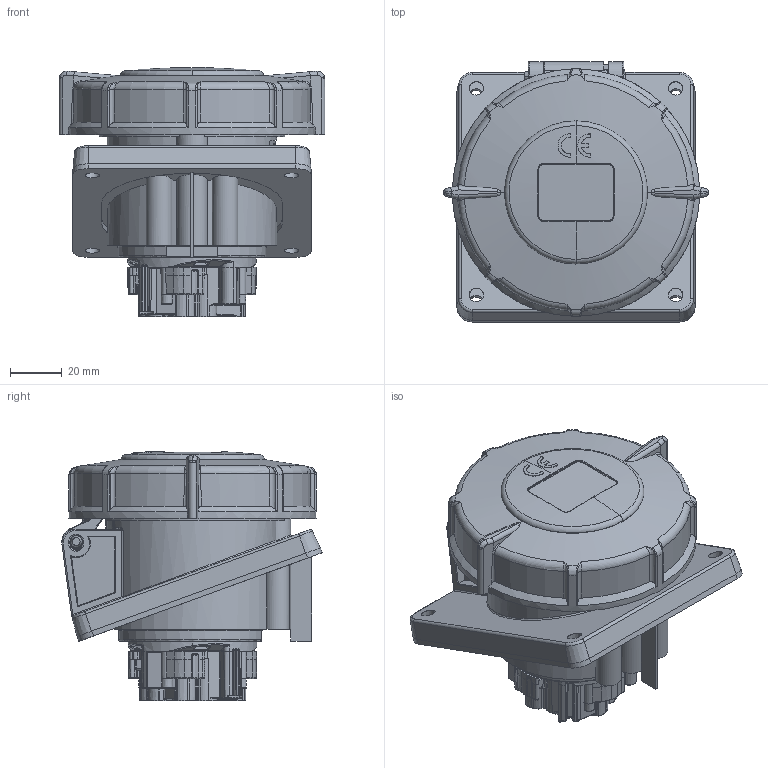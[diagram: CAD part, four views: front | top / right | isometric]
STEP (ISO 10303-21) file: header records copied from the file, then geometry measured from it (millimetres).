
FILE_DESCRIPTION((''),'2;1');
FILE_NAME('1805_SW0001','2017-09-25T',('gisse'),('MENNEKES'),'PRO/ENGINEER BY PARAMETRIC TECHNOLOGY CORPORATION, 2015440','PRO/ENGINEER BY PARAMETRIC TECHNOLOGY CORPORATION, 2015440','');
FILE_SCHEMA(('AUTOMOTIVE_DESIGN { 1 0 10303 214 1 1 1 1 }'));
Length unit declared in the file: millimetre
Products named in the file (1): 1805_SW0001
Bounding box: 102.6 x 100.51 x 96.48 mm (x, y, z)
Volume: 404771.9 mm3; surface area: 61453.6 mm2
Topology: 1 solids, 1 shells, 3226 faces, 8430 edges, 5247 vertices
Faces by surface type: plane 1528, cylinder 637, bspline 487, torus 278, cone 206, sphere 84, extrusion 4, revolution 2
Entity records: 156054 total; most frequent: CARTESIAN_POINT 43990, ORIENTED_EDGE 16848, DIRECTION 13666, EDGE_CURVE 8424, FILL_AREA_STYLE_COLOUR 6213, FILL_AREA_STYLE 6213, SURFACE_STYLE_FILL_AREA 6213, SURFACE_SIDE_STYLE 6213
